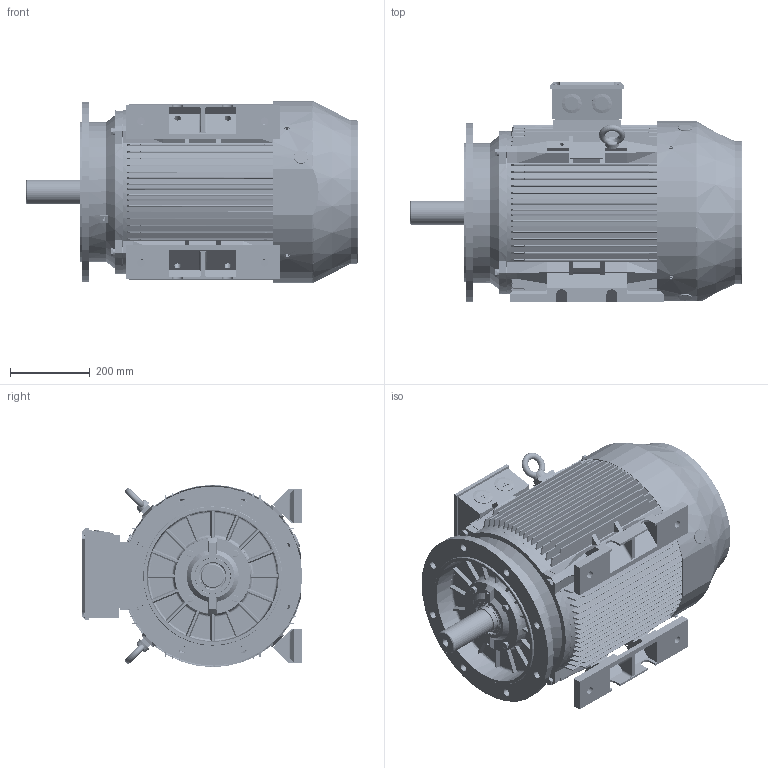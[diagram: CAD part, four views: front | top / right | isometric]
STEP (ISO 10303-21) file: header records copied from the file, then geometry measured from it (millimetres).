
FILE_DESCRIPTION (( 'STEP AP214' ), '1' );
FILE_NAME ('BCT4300.22D635.11.step', '2020-04-23T15:14:36', ( '' ), ( '' ), 'SwSTEP 2.0', 'SolidWorks 2019', '' );
FILE_SCHEMA (( 'AUTOMOTIVE_DESIGN' ));
Length unit declared in the file: millimetre
Products named in the file (1): BCT4300.22D635.11
Bounding box: 834.52 x 554 x 458.4 mm (x, y, z)
Volume: 23172709.1 mm3; surface area: 5395269.7 mm2
Topology: 53 solids, 54 shells, 8108 faces, 23434 edges, 15374 vertices
Faces by surface type: plane 3972, cylinder 3099, cone 425, torus 362, sphere 128, bspline 122
Entity records: 300627 total; most frequent: CARTESIAN_POINT 83360, ORIENTED_EDGE 46448, DIRECTION 44321, EDGE_CURVE 23224, AXIS2_PLACEMENT_3D 15480, VERTEX_POINT 15310, LINE 13361, VECTOR 13361
